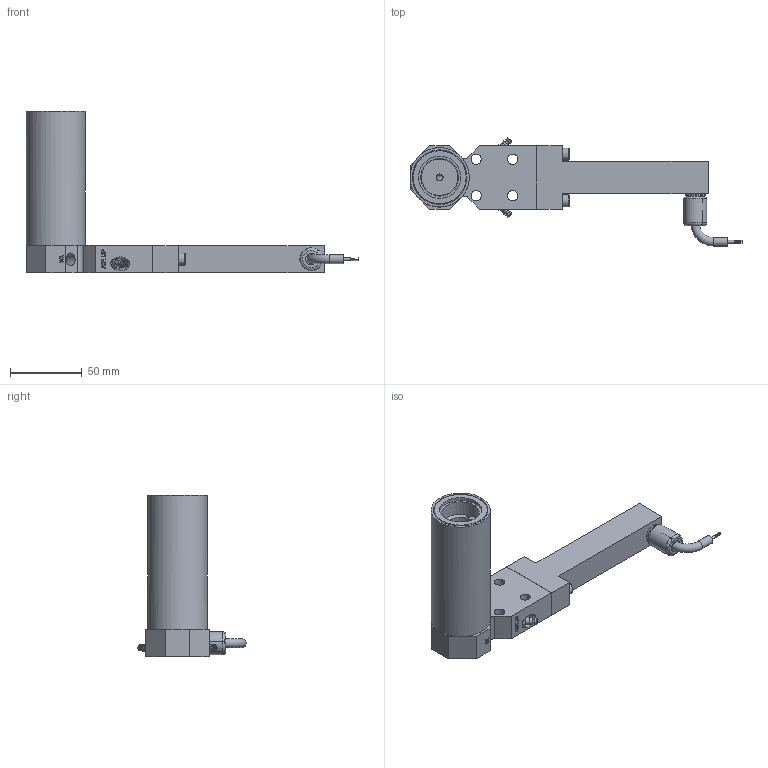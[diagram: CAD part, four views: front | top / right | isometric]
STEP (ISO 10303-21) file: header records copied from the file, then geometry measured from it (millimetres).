
FILE_DESCRIPTION(/* description */ ('ASSY,BODY,VF,LVDT,SXZR4,NHP,LEFT EXIT'),/* implementation_level */ '2;1');
FILE_NAME(/* name */ 'X:\ASSY,BODY,VF,LVDT,SXZR4,NHP,LEFT EXIT_0001582478.stp',/* time_stamp */ '2021-04-13T13:07:06-04:00',/* author */ ('Simon.Britton'),/* organization */ (''),/* preprocessor_version */ 'ST-DEVELOPER v17',/* originating_system */ 'Autodesk Inventor 2019',/* authorisation */ '');
FILE_SCHEMA (('AUTOMOTIVE_DESIGN { 1 0 10303 214 3 1 1 }'));
Length unit declared in the file: millimetre
Products named in the file (1): ASSY,VF,LVDT,SXZR,4,TM,S,NHP,N
Bounding box: 231.1 x 75.3 x 112.65 mm (x, y, z)
Volume: 185461.9 mm3; surface area: 82994 mm2
Topology: 2 solids, 6 shells, 529 faces, 1374 edges, 916 vertices
Faces by surface type: plane 334, cylinder 82, bspline 50, cone 50, torus 13
Full cylindrical faces by diameter (mm): 0.5 x4, 2 x1, 2.381 x3, 3.175 x2, 4 x3, 4.064 x2, 4.216 x4, 4.318 x2, 4.763 x1, 6 x2, 6.35 x6, 7.112 x3, 7.144 x4, 7.95 x1, 8 x1, 8.5 x2, 8.731 x2, 9.525 x2, 10 x1, 12.7 x1, 13.716 x1, 14 x2, 15.206 x1, 15.24 x2, 16 x1, 25.4 x1, 26.289 x1, 29.369 x1, 35.103 x4, 37.846 x4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
Entity records: 17843 total; most frequent: CARTESIAN_POINT 4418, ORIENTED_EDGE 2738, DIRECTION 2482, EDGE_CURVE 1369, VERTEX_POINT 916, AXIS2_PLACEMENT_3D 837, LINE 808, VECTOR 808
